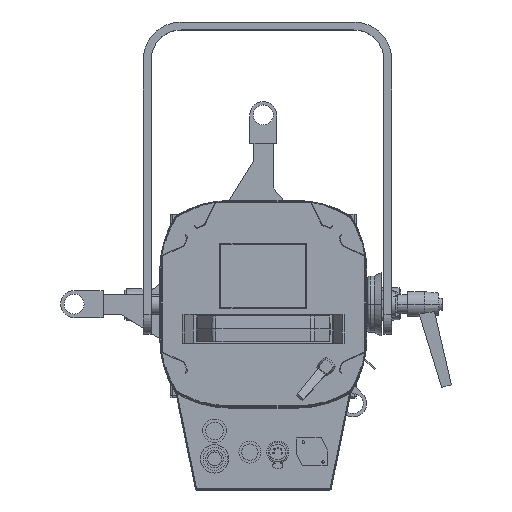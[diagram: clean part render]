
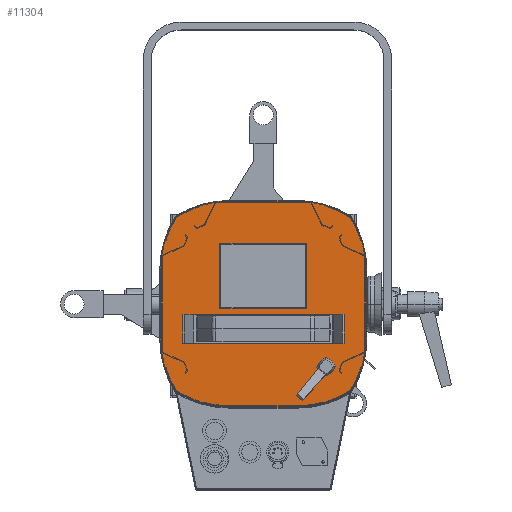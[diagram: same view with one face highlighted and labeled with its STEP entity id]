
A CAD part, top view. The second image highlights one B-rep face of the part: STEP entity #11304.
In plain terms, the highlighted planar face has unit normal (0, 0, 1).
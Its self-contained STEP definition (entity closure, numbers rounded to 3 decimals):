
#250 = AXIS2_PLACEMENT_3D ( 'NONE', #6116, #23338, #15940 ) ;
#694 = AXIS2_PLACEMENT_3D ( 'NONE', #18080, #18676, #13990 ) ;
#1305 = LINE ( 'NONE', #21278, #6245 ) ;
#1493 = CARTESIAN_POINT ( 'NONE',  ( 33., -103.8, 227.1 ) ) ;
#1651 = EDGE_CURVE ( 'NONE', #23660, #21863, #20948, .T. ) ;
#1821 = DIRECTION ( 'NONE',  ( 0., 1., 0. ) ) ;
#2063 = AXIS2_PLACEMENT_3D ( 'NONE', #5744, #5258, #22183 ) ;
#2638 = VECTOR ( 'NONE', #8605, 1000. ) ;
#2986 = ORIENTED_EDGE ( 'NONE', *, *, #30226, .F. ) ;
#3129 = ORIENTED_EDGE ( 'NONE', *, *, #21478, .F. ) ;
#3148 = ORIENTED_EDGE ( 'NONE', *, *, #1651, .F. ) ;
#4296 = CARTESIAN_POINT ( 'NONE',  ( 88.019, 88.019, 227.1 ) ) ;
#5191 = LINE ( 'NONE', #22259, #27293 ) ;
#5258 = DIRECTION ( 'NONE',  ( 0., 0., -1. ) ) ;
#5469 = CARTESIAN_POINT ( 'NONE',  ( 42.5, -4., 227.1 ) ) ;
#5744 = CARTESIAN_POINT ( 'NONE',  ( 0., 33., 227.1 ) ) ;
#5786 = EDGE_CURVE ( 'NONE', #11297, #30481, #31092, .T. ) ;
#5984 = FACE_BOUND ( 'NONE', #29178, .T. ) ;
#6018 = CARTESIAN_POINT ( 'NONE',  ( 88.019, -88.019, 227.1 ) ) ;
#6116 = CARTESIAN_POINT ( 'NONE',  ( 0., 33., 227.1 ) ) ;
#6245 = VECTOR ( 'NONE', #8400, 1000. ) ;
#6851 = LINE ( 'NONE', #14091, #7051 ) ;
#7051 = VECTOR ( 'NONE', #9571, 1000. ) ;
#7091 = VERTEX_POINT ( 'NONE', #25743 ) ;
#7289 = ORIENTED_EDGE ( 'NONE', *, *, #12383, .F. ) ;
#7498 = AXIS2_PLACEMENT_3D ( 'NONE', #25920, #23512, #25782 ) ;
#7741 = CARTESIAN_POINT ( 'NONE',  ( -33., -103.8, 227.1 ) ) ;
#8366 = ORIENTED_EDGE ( 'NONE', *, *, #24512, .F. ) ;
#8400 = DIRECTION ( 'NONE',  ( 1., 0., 0. ) ) ;
#8491 = DIRECTION ( 'NONE',  ( -1., 0., 0. ) ) ;
#8505 = ORIENTED_EDGE ( 'NONE', *, *, #18897, .F. ) ;
#8571 = CARTESIAN_POINT ( 'NONE',  ( 0., -33., 227.1 ) ) ;
#8605 = DIRECTION ( 'NONE',  ( 0., -1., 0. ) ) ;
#8816 = CARTESIAN_POINT ( 'NONE',  ( 103.8, -33., 227.1 ) ) ;
#8866 = EDGE_CURVE ( 'NONE', #14756, #16658, #5191, .T. ) ;
#9079 = CARTESIAN_POINT ( 'NONE',  ( -103.8, -33., 227.1 ) ) ;
#9166 = CIRCLE ( 'NONE', #18958, 103.8 ) ;
#9215 = EDGE_CURVE ( 'NONE', #25455, #24031, #25214, .T. ) ;
#9439 = CIRCLE ( 'NONE', #694, 103.8 ) ;
#9571 = DIRECTION ( 'NONE',  ( 1., 0., 0. ) ) ;
#9579 = AXIS2_PLACEMENT_3D ( 'NONE', #22500, #18326, #8491 ) ;
#10177 = ORIENTED_EDGE ( 'NONE', *, *, #22046, .F. ) ;
#10277 = DIRECTION ( 'NONE',  ( -1., 0., 0. ) ) ;
#10352 = CARTESIAN_POINT ( 'NONE',  ( -42.5, -4., 227.1 ) ) ;
#10738 = CARTESIAN_POINT ( 'NONE',  ( 103.8, 33., 227.1 ) ) ;
#10789 = CARTESIAN_POINT ( 'NONE',  ( 33., 0., 227.1 ) ) ;
#11297 = VERTEX_POINT ( 'NONE', #28054 ) ;
#11304 = ADVANCED_FACE ( 'NONE', ( #5984, #30959 ), #18408, .F. ) ;
#11812 = ORIENTED_EDGE ( 'NONE', *, *, #19296, .F. ) ;
#11952 = LINE ( 'NONE', #26613, #23674 ) ;
#12383 = EDGE_CURVE ( 'NONE', #21863, #19741, #16788, .T. ) ;
#13372 = DIRECTION ( 'NONE',  ( -1., 0., 0. ) ) ;
#13908 = LINE ( 'NONE', #21167, #2638 ) ;
#13970 = DIRECTION ( 'NONE',  ( 0., 0., -1. ) ) ;
#13990 = DIRECTION ( 'NONE',  ( 1., 0., 0. ) ) ;
#14091 = CARTESIAN_POINT ( 'NONE',  ( 33., 103.8, 227.1 ) ) ;
#14442 = VERTEX_POINT ( 'NONE', #10352 ) ;
#14680 = DIRECTION ( 'NONE',  ( -1., 0., 0. ) ) ;
#14681 = DIRECTION ( 'NONE',  ( 0., 1., 0. ) ) ;
#14756 = VERTEX_POINT ( 'NONE', #5469 ) ;
#14918 = EDGE_CURVE ( 'NONE', #24031, #7091, #18822, .T. ) ;
#15288 = VERTEX_POINT ( 'NONE', #17530 ) ;
#15553 = VERTEX_POINT ( 'NONE', #4296 ) ;
#15940 = DIRECTION ( 'NONE',  ( 1., 0., 0. ) ) ;
#16013 = LINE ( 'NONE', #9079, #16494 ) ;
#16093 = VECTOR ( 'NONE', #25918, 1000. ) ;
#16131 = DIRECTION ( 'NONE',  ( 0., 0., -1. ) ) ;
#16424 = CARTESIAN_POINT ( 'NONE',  ( 0., -33., 227.1 ) ) ;
#16494 = VECTOR ( 'NONE', #1821, 1000. ) ;
#16658 = VERTEX_POINT ( 'NONE', #29349 ) ;
#16688 = DIRECTION ( 'NONE',  ( 1., 0., 0. ) ) ;
#16788 = CIRCLE ( 'NONE', #9579, 103.8 ) ;
#17530 = CARTESIAN_POINT ( 'NONE',  ( 33., 103.8, 227.1 ) ) ;
#17713 = ORIENTED_EDGE ( 'NONE', *, *, #9215, .F. ) ;
#17827 = EDGE_CURVE ( 'NONE', #16658, #31003, #11952, .T. ) ;
#18080 = CARTESIAN_POINT ( 'NONE',  ( 0., -33., 227.1 ) ) ;
#18326 = DIRECTION ( 'NONE',  ( 0., 0., -1. ) ) ;
#18408 = PLANE ( 'NONE',  #23578 ) ;
#18644 = DIRECTION ( 'NONE',  ( 0., -1., 0. ) ) ;
#18676 = DIRECTION ( 'NONE',  ( 0., 0., -1. ) ) ;
#18822 = CIRCLE ( 'NONE', #7498, 103.8 ) ;
#18884 = CIRCLE ( 'NONE', #29664, 103.8 ) ;
#18897 = EDGE_CURVE ( 'NONE', #20693, #25455, #16013, .T. ) ;
#18950 = EDGE_CURVE ( 'NONE', #31003, #14442, #13908, .T. ) ;
#18958 = AXIS2_PLACEMENT_3D ( 'NONE', #19140, #13970, #16688 ) ;
#19140 = CARTESIAN_POINT ( 'NONE',  ( 33., 0., 227.1 ) ) ;
#19171 = DIRECTION ( 'NONE',  ( 0., 0., -1. ) ) ;
#19296 = EDGE_CURVE ( 'NONE', #14442, #14756, #1305, .T. ) ;
#19741 = VERTEX_POINT ( 'NONE', #25600 ) ;
#19838 = EDGE_LOOP ( 'NONE', ( #23677, #3129, #31054, #10177, #2986, #28657, #17713, #8505, #24614, #7289, #3148, #8366 ) ) ;
#19985 = CARTESIAN_POINT ( 'NONE',  ( -103.8, -33., 227.1 ) ) ;
#20693 = VERTEX_POINT ( 'NONE', #19985 ) ;
#20934 = EDGE_CURVE ( 'NONE', #15553, #30094, #29595, .T. ) ;
#20948 = LINE ( 'NONE', #31078, #16093 ) ;
#21167 = CARTESIAN_POINT ( 'NONE',  ( -42.5, 14., 227.1 ) ) ;
#21278 = CARTESIAN_POINT ( 'NONE',  ( -42.5, -4., 227.1 ) ) ;
#21423 = VECTOR ( 'NONE', #18644, 1000. ) ;
#21478 = EDGE_CURVE ( 'NONE', #30094, #11297, #28617, .T. ) ;
#21565 = CARTESIAN_POINT ( 'NONE',  ( -42.5, 60., 227.1 ) ) ;
#21863 = VERTEX_POINT ( 'NONE', #7741 ) ;
#22046 = EDGE_CURVE ( 'NONE', #15288, #15553, #18884, .T. ) ;
#22183 = DIRECTION ( 'NONE',  ( -1., 0., 0. ) ) ;
#22259 = CARTESIAN_POINT ( 'NONE',  ( 42.5, 60., 227.1 ) ) ;
#22357 = CARTESIAN_POINT ( 'NONE',  ( -103.8, 33., 227.1 ) ) ;
#22500 = CARTESIAN_POINT ( 'NONE',  ( -33., 0., 227.1 ) ) ;
#23338 = DIRECTION ( 'NONE',  ( 0., 0., -1. ) ) ;
#23512 = DIRECTION ( 'NONE',  ( 0., 0., -1. ) ) ;
#23578 = AXIS2_PLACEMENT_3D ( 'NONE', #8571, #16131, #28225 ) ;
#23660 = VERTEX_POINT ( 'NONE', #1493 ) ;
#23674 = VECTOR ( 'NONE', #14680, 1000. ) ;
#23677 = ORIENTED_EDGE ( 'NONE', *, *, #5786, .F. ) ;
#24031 = VERTEX_POINT ( 'NONE', #28367 ) ;
#24512 = EDGE_CURVE ( 'NONE', #30481, #23660, #9166, .T. ) ;
#24614 = ORIENTED_EDGE ( 'NONE', *, *, #30883, .F. ) ;
#24623 = ORIENTED_EDGE ( 'NONE', *, *, #8866, .F. ) ;
#25214 = CIRCLE ( 'NONE', #2063, 103.8 ) ;
#25455 = VERTEX_POINT ( 'NONE', #22357 ) ;
#25600 = CARTESIAN_POINT ( 'NONE',  ( -88.019, -88.019, 227.1 ) ) ;
#25743 = CARTESIAN_POINT ( 'NONE',  ( -33., 103.8, 227.1 ) ) ;
#25782 = DIRECTION ( 'NONE',  ( 1., 0., 0. ) ) ;
#25918 = DIRECTION ( 'NONE',  ( -1., 0., 0. ) ) ;
#25920 = CARTESIAN_POINT ( 'NONE',  ( -33., 0., 227.1 ) ) ;
#26613 = CARTESIAN_POINT ( 'NONE',  ( 2.5, 60., 227.1 ) ) ;
#26963 = AXIS2_PLACEMENT_3D ( 'NONE', #16424, #19171, #10277 ) ;
#27293 = VECTOR ( 'NONE', #14681, 1000. ) ;
#28054 = CARTESIAN_POINT ( 'NONE',  ( 103.8, -33., 227.1 ) ) ;
#28225 = DIRECTION ( 'NONE',  ( -1., 0., 0. ) ) ;
#28367 = CARTESIAN_POINT ( 'NONE',  ( -88.019, 88.019, 227.1 ) ) ;
#28617 = LINE ( 'NONE', #8816, #21423 ) ;
#28657 = ORIENTED_EDGE ( 'NONE', *, *, #14918, .F. ) ;
#29178 = EDGE_LOOP ( 'NONE', ( #30755, #29431, #24623, #11812 ) ) ;
#29349 = CARTESIAN_POINT ( 'NONE',  ( 42.5, 60., 227.1 ) ) ;
#29431 = ORIENTED_EDGE ( 'NONE', *, *, #17827, .F. ) ;
#29595 = CIRCLE ( 'NONE', #250, 103.8 ) ;
#29664 = AXIS2_PLACEMENT_3D ( 'NONE', #10789, #30766, #13372 ) ;
#30094 = VERTEX_POINT ( 'NONE', #10738 ) ;
#30226 = EDGE_CURVE ( 'NONE', #7091, #15288, #6851, .T. ) ;
#30481 = VERTEX_POINT ( 'NONE', #6018 ) ;
#30755 = ORIENTED_EDGE ( 'NONE', *, *, #18950, .F. ) ;
#30766 = DIRECTION ( 'NONE',  ( 0., 0., -1. ) ) ;
#30883 = EDGE_CURVE ( 'NONE', #19741, #20693, #9439, .T. ) ;
#30959 = FACE_OUTER_BOUND ( 'NONE', #19838, .T. ) ;
#31003 = VERTEX_POINT ( 'NONE', #21565 ) ;
#31054 = ORIENTED_EDGE ( 'NONE', *, *, #20934, .F. ) ;
#31078 = CARTESIAN_POINT ( 'NONE',  ( 33., -103.8, 227.1 ) ) ;
#31092 = CIRCLE ( 'NONE', #26963, 103.8 ) ;
